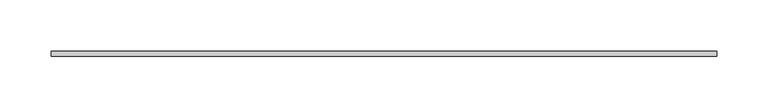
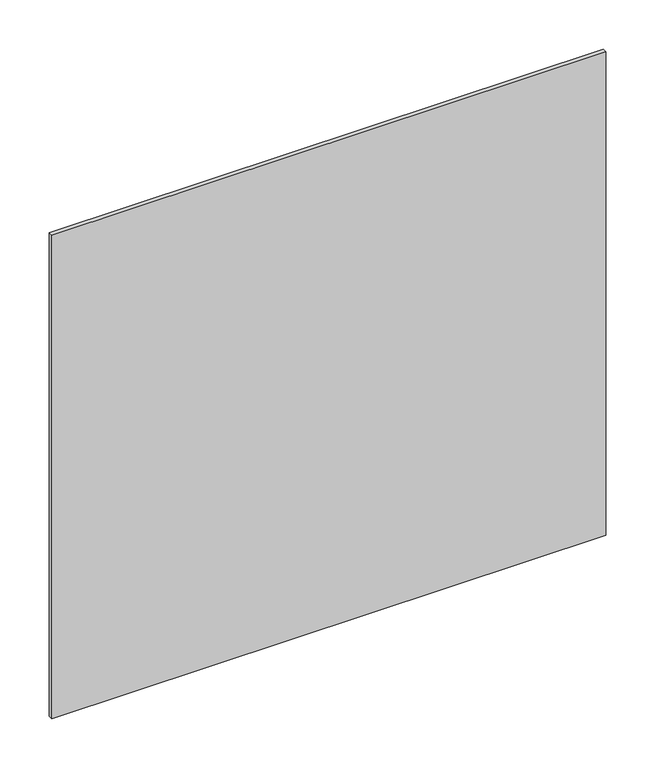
"""IFC4 building model written with IfcOpenShell, lengths in millimetres: damper geometry, ZYR_15.03 Unió Rect Conducte : ZYR_15.03 Unió Rect Conducte."""

from ifc_helpers import new_model, si_unit, frame, origin, place, context, project, spatial, polyline, outline, extrude, source, transform, mapped, element, save


def damper_8b85935d(model_context):
    return source(origin(), model_context, "Body", "SweptSolid", [
        extrude(outline(polyline([(325.0, -2.5), (-325.0, -2.5), (-325.0, 2.5), (325.0, 2.5), (325.0, -2.5)])), frame((0.0, 0.0, -300.0), z_axis=(0.0, 0.0, 1.0), x_axis=(1.0, 0.0, 0.0)), (0.0, 0.0, 1.0), 600.0),
    ])


if __name__ == "__main__":
    model = new_model("IFC4")
    model_context = context("Model", 3, world=origin())
    ifc_project = project(units=[si_unit("LENGTHUNIT", "METRE", prefix="MILLI")], contexts=[model_context])
    site = spatial("IfcSite", under=ifc_project)
    building = spatial("IfcBuilding", under=site)
    placement = place(None, origin())
    damper_shape = damper_8b85935d(model_context)
    element("IfcDamper", 1, ObjectType="ZYR_15.03 Unió Rect Conducte : ZYR_15.03 Unió Rect Conducte", at=placement, inside=building, context=model_context, shape_type="MappedRepresentation", body=[
        mapped(damper_shape, transform((0.0, 0.0, 0.0), x_axis=(1.0, 0.0, 0.0), y_axis=(0.0, 1.0, 0.0), z_axis=(0.0, 0.0, 1.0))),
    ])
    save(model, "model.ifc")
